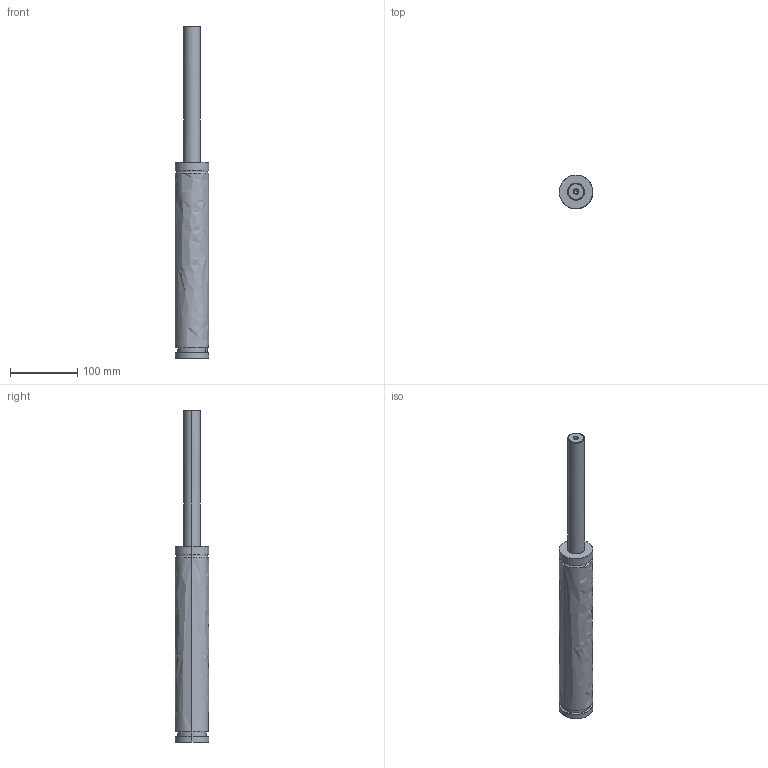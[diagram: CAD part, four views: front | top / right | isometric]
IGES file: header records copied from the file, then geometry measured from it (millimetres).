
Global section: file name: E:\UnigraphicsGraphicData\MISUMI_PRESS-PARTS\IGES\3d_gse50-200_03879_r00.igs; native system: NX V5.0; preprocessor: UGS NX IGES V5.0; author: MISUMI; date: 20110105.160759; units: millimetre
Bounding box: 50 x 50 x 495 mm (x, y, z)
Surface area: 68255.1 mm2 (no closed solid volume)
Topology: 0 solids, 0 shells, 57 faces, 453 edges, 451 vertices
Faces by surface type: bspline 57
